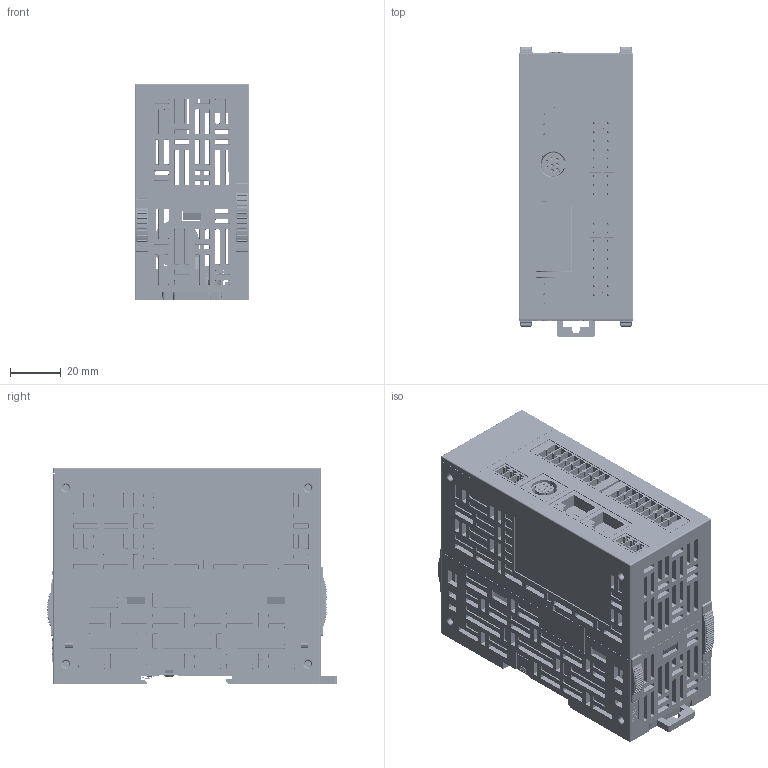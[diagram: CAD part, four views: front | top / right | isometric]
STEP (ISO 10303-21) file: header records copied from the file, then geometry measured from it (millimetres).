
FILE_DESCRIPTION((''),'2;1');
FILE_NAME('MS2-32A4-105_ASM','2022-03-29T11:41:57',('Lenovo'),(''),'CREO PARAMETRIC BY PTC INC, 2020033','CREO PARAMETRIC BY PTC INC, 2020033','');
FILE_SCHEMA(('CONFIG_CONTROL_DESIGN'));
Products named in the file (27): MS2-32A4-BASE-105; MS2-32A4-MKGDK; KAKOU-105; MS2-32A4-COVER-105; MS2-32A4-DAOGUANGZHU; MS2-32A4-JINGPIAN-105; MS2-32A4-PCB-I; JIEXIANDUANZI-CHAZUO; LED-CE; 50PIN-CHATOU; 24PIN-CHAZUO; MS2-32A4-PCB-I_ASM; MS2-32A4-PCB-LED; MS2-32A4-PCB-LED_ASM; MS2-32A4-PCB-U; OQ381-RIGHT-ANGLE; RJ45-HR913550A; MDC-8-101; 50PIN-CHAZUO; JIEDIPIAN01; MK-12D28-04; MS-12D04-G4; MS2-32A4-PCB-U_ASM; JIEDIPIAN02; DIANCHIHE-165; MS2-32A4-XIAOGAIBAN; MS2-32A4-105_ASM
Assembly tree (72 placements, depth 3):
  MS2-32A4-105_ASM
    MS2-32A4-BASE-105
    MS2-32A4-MKGDK  x5
    KAKOU-105
    MS2-32A4-COVER-105
    MS2-32A4-DAOGUANGZHU  x4
    MS2-32A4-JINGPIAN-105
    MS2-32A4-PCB-I_ASM
      MS2-32A4-PCB-I
      JIEXIANDUANZI-CHAZUO  x2
      LED-CE  x16
      50PIN-CHATOU
      24PIN-CHAZUO
    MS2-32A4-PCB-LED_ASM
      MS2-32A4-PCB-LED
      LED-CE  x16
    MS2-32A4-PCB-U_ASM
      MS2-32A4-PCB-U
      OQ381-RIGHT-ANGLE  x2
      RJ45-HR913550A  x2
      MDC-8-101
      LED-CE  x3
      50PIN-CHAZUO
      24PIN-CHAZUO
      JIEDIPIAN01
      MK-12D28-04
      MS-12D04-G4
    JIEDIPIAN02
    DIANCHIHE-165
    MS2-32A4-XIAOGAIBAN  x2
Bounding box: 45 x 113.94 x 85 mm (x, y, z)
Volume: 124436.3 mm3; surface area: 156287 mm2
Topology: 70 solids, 77 shells, 11044 faces, 28905 edges, 18699 vertices
Faces by surface type: plane 8639, cone 1276, cylinder 959, extrusion 70, torus 41, bspline 39, sphere 20
Entity records: 268958 total; most frequent: CARTESIAN_POINT 51378, ORIENTED_EDGE 45916, DIRECTION 42312, EDGE_CURVE 22968, VECTOR 19146, LINE 19132, VERTEX_POINT 14869, AXIS2_PLACEMENT_3D 11583
